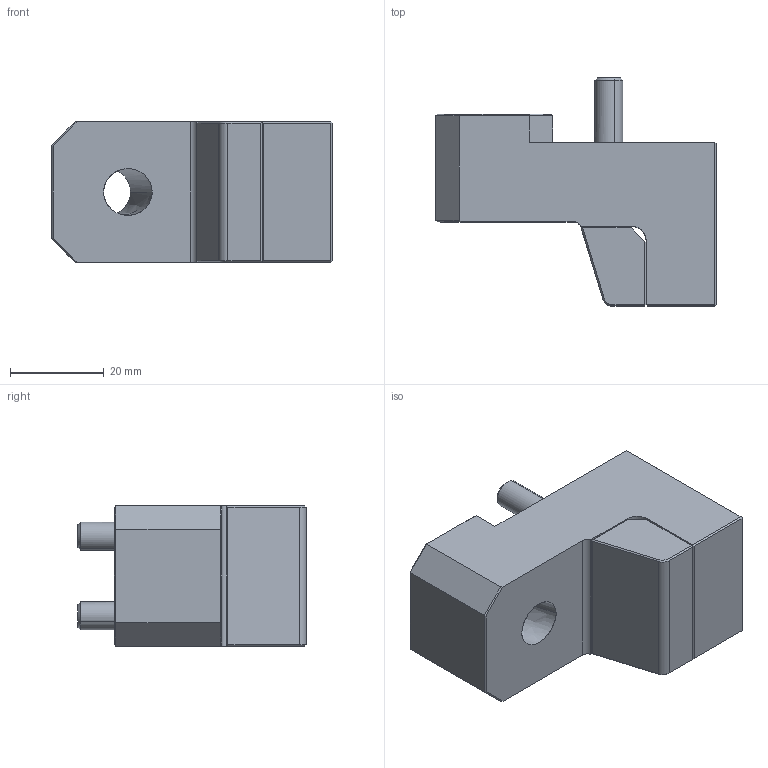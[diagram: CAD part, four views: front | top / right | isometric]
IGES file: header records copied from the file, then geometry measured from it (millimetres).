
Start section: START RECORD GO HERE.
Global section: file name: cg603035.igs; native system: DASSAULT SYSTEMES CATIA V5 R20 - www.3ds.com; preprocessor: CATIA Version 5 Release 20 ; author: Utente; organization: NB04-ASUS; date: 20201103.204845; units: millimetre
Bounding box: 60 x 48.8 x 30 mm (x, y, z)
Surface area: 16097.8 mm2 (no closed solid volume)
Topology: 0 solids, 0 shells, 241 faces, 1610 edges, 1602 vertices
Faces by surface type: plane 153, revolution 83, bspline 5
